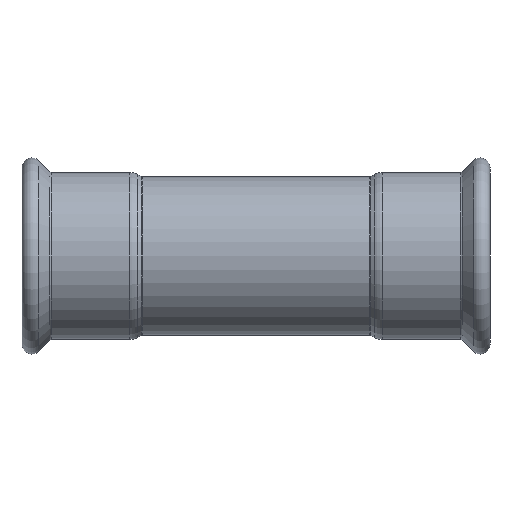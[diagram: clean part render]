
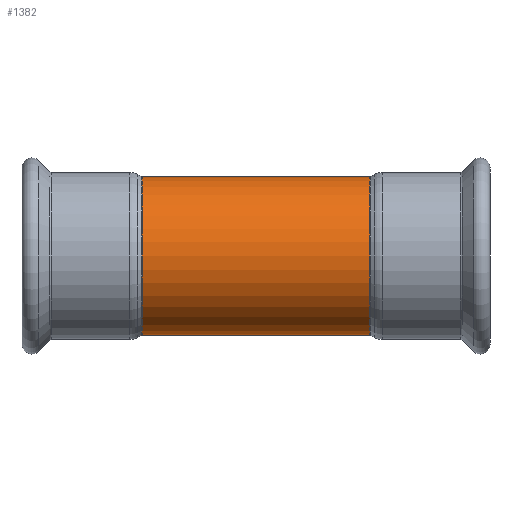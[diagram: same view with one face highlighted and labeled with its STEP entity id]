
A CAD part, front view. The second image highlights one B-rep face of the part: STEP entity #1382.
In plain terms, the highlighted cylindrical face has radius 43.95 mm (diameter 87.9 mm), a partial arc.
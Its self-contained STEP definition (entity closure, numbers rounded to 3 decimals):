
#125 = DIRECTION ( 'NONE',  ( -1., 0., 0. ) ) ;
#130 = CARTESIAN_POINT ( 'NONE',  ( -63.056, 0., 0. ) ) ;
#134 = EDGE_LOOP ( 'NONE', ( #2588, #3102, #2229, #1218 ) ) ;
#144 = DIRECTION ( 'NONE',  ( -1., 0., 0. ) ) ;
#199 = CARTESIAN_POINT ( 'NONE',  ( 63.056, 0., 43.95 ) ) ;
#322 = VECTOR ( 'NONE', #125, 1000. ) ;
#598 = VECTOR ( 'NONE', #4217, 1000. ) ;
#812 = CYLINDRICAL_SURFACE ( 'NONE', #2692, 43.95 ) ;
#947 = DIRECTION ( 'NONE',  ( 0., 0., 1. ) ) ;
#991 = CARTESIAN_POINT ( 'NONE',  ( -63.056, 0., -43.95 ) ) ;
#1000 = DIRECTION ( 'NONE',  ( -1., 0., 0. ) ) ;
#1013 = CARTESIAN_POINT ( 'NONE',  ( 63.056, 0., -43.95 ) ) ;
#1069 = DIRECTION ( 'NONE',  ( -1., 0., 0. ) ) ;
#1071 = VERTEX_POINT ( 'NONE', #991 ) ;
#1208 = DIRECTION ( 'NONE',  ( 0., 0., 1. ) ) ;
#1218 = ORIENTED_EDGE ( 'NONE', *, *, #3745, .F. ) ;
#1344 = CIRCLE ( 'NONE', #2536, 43.95 ) ;
#1346 = CARTESIAN_POINT ( 'NONE',  ( 63.056, 0., 0. ) ) ;
#1382 = ADVANCED_FACE ( 'NONE', ( #2266 ), #812, .T. ) ;
#1816 = AXIS2_PLACEMENT_3D ( 'NONE', #1346, #1000, #947 ) ;
#2106 = CARTESIAN_POINT ( 'NONE',  ( 27.146, 0., 43.95 ) ) ;
#2205 = VERTEX_POINT ( 'NONE', #199 ) ;
#2229 = ORIENTED_EDGE ( 'NONE', *, *, #2371, .T. ) ;
#2266 = FACE_OUTER_BOUND ( 'NONE', #134, .T. ) ;
#2371 = EDGE_CURVE ( 'NONE', #2205, #2444, #2609, .T. ) ;
#2444 = VERTEX_POINT ( 'NONE', #3190 ) ;
#2499 = CARTESIAN_POINT ( 'NONE',  ( 27.146, 0., 0. ) ) ;
#2536 = AXIS2_PLACEMENT_3D ( 'NONE', #130, #144, #1208 ) ;
#2588 = ORIENTED_EDGE ( 'NONE', *, *, #3302, .F. ) ;
#2609 = LINE ( 'NONE', #2106, #598 ) ;
#2692 = AXIS2_PLACEMENT_3D ( 'NONE', #2499, #1069, #3996 ) ;
#2979 = EDGE_CURVE ( 'NONE', #3596, #2205, #4100, .T. ) ;
#3102 = ORIENTED_EDGE ( 'NONE', *, *, #2979, .T. ) ;
#3190 = CARTESIAN_POINT ( 'NONE',  ( -63.056, 0., 43.95 ) ) ;
#3302 = EDGE_CURVE ( 'NONE', #3596, #1071, #3768, .T. ) ;
#3596 = VERTEX_POINT ( 'NONE', #1013 ) ;
#3745 = EDGE_CURVE ( 'NONE', #1071, #2444, #1344, .T. ) ;
#3768 = LINE ( 'NONE', #4077, #322 ) ;
#3996 = DIRECTION ( 'NONE',  ( 0., 0., 1. ) ) ;
#4077 = CARTESIAN_POINT ( 'NONE',  ( 27.146, 0., -43.95 ) ) ;
#4100 = CIRCLE ( 'NONE', #1816, 43.95 ) ;
#4217 = DIRECTION ( 'NONE',  ( -1., 0., 0. ) ) ;
